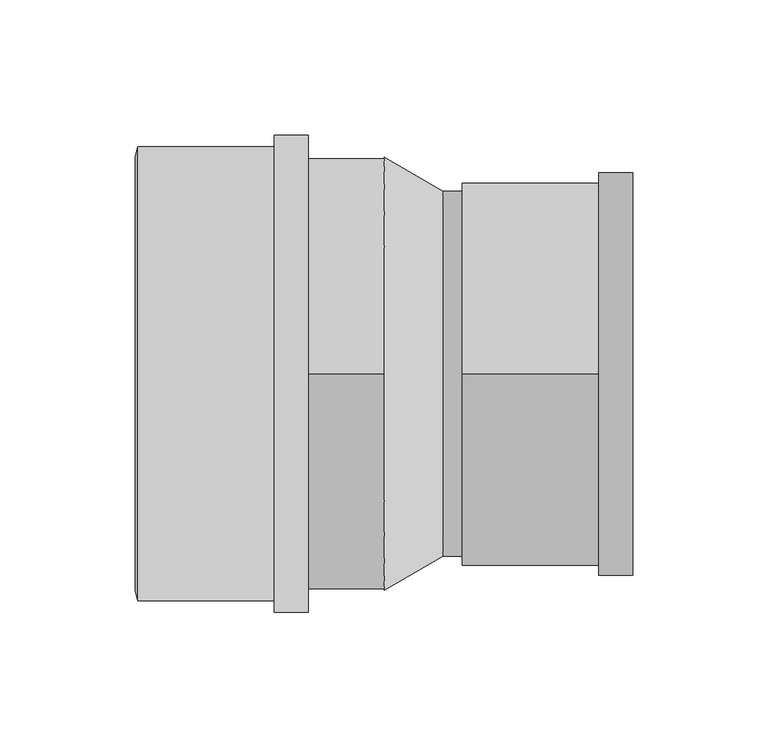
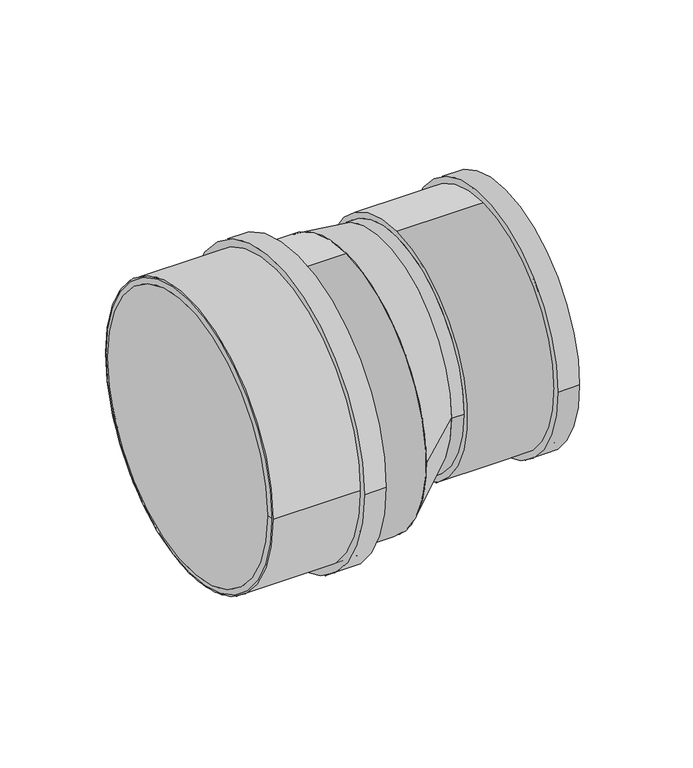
"""IFC4 building model written with IfcOpenShell, lengths in millimetres: pipe fitting geometry, Superdrain SKR-Reducer : Superdrain SKR-Reducer."""

from ifc_helpers import new_model, si_unit, point, frame, frame_2d, origin, origin_2d, place, context, project, spatial, polyline, circle_curve, trimmed, segment, composite_curve, outline, extrude, source, transform, mapped, element, save
from ifc_brep_helpers import plane_surface, revolved_surface, spline_surface, advanced_brep


def pipe_fitting_7beec764(model_context):
    return source(origin(), model_context, "Body", "SolidModel", [
        extrude(outline(composite_curve([segment(trimmed(circle_curve(frame_2d((0.0, 0.1450234)), 84.0), [point((84.0, 0.1450234))], [point((-84.0, 0.1450234))], False, "CARTESIAN"), True, "CONTINUOUS"), segment(trimmed(circle_curve(frame_2d((0.0, 0.1450234)), 84.0), [point((-84.0, 0.1450234))], [point((84.0, 0.1450234))], False, "CARTESIAN"), True, "CONTINUOUS")], self_intersect=False), holes=[composite_curve([segment(trimmed(circle_curve(frame_2d((0.0, 0.1450234)), 80.0), [point((80.0, 0.1450234))], [point((-80.0, 0.1450234))], True, "CARTESIAN"), True, "CONTINUOUS"), segment(trimmed(circle_curve(frame_2d((0.0, 0.1450234)), 80.0), [point((-80.0, 0.1450234))], [point((80.0, 0.1450234))], True, "CARTESIAN"), True, "CONTINUOUS")], self_intersect=False)]), frame((-91.0, 0.0, 0.0), z_axis=(1.0, 0.0, 0.0), x_axis=(0.0, 1.0, 0.0)), (0.0, 0.0, 1.0), 63.0),
        extrude(outline(composite_curve([segment(trimmed(circle_curve(frame_2d((0.0, 0.1450234)), 88.2), [point((88.2, 0.1450234))], [point((-88.2, 0.1450234))], False, "CARTESIAN"), True, "CONTINUOUS"), segment(trimmed(circle_curve(frame_2d((0.0, 0.1450234)), 88.2), [point((-88.2, 0.1450234))], [point((88.2, 0.1450234))], False, "CARTESIAN"), True, "CONTINUOUS")], self_intersect=False), holes=[composite_curve([segment(trimmed(circle_curve(frame_2d((0.0, 0.1450234)), 80.0), [point((80.0, 0.1450234))], [point((-80.0, 0.1450234))], True, "CARTESIAN"), True, "CONTINUOUS"), segment(trimmed(circle_curve(frame_2d((0.0, 0.1450234)), 80.0), [point((-80.0, 0.1450234))], [point((80.0, 0.1450234))], True, "CARTESIAN"), True, "CONTINUOUS")], self_intersect=False)]), frame((-40.6, 0.0, 0.0), z_axis=(1.0, 0.0, 0.0), x_axis=(0.0, 1.0, 0.0)), (0.0, 0.0, 1.0), 12.6),
        advanced_brep(
        [(-92.0, 80.0, 0.1450234), (-92.0, -80.0, 0.1450234), (-91.0, 84.0, 0.1450234), (-91.0, -84.0, 0.1450234)],
        [
            (0, 1, circle_curve(frame((-92.0, 0.0, 0.1450234), z_axis=(-1.0, 0.0, 0.0), x_axis=(0.0, 1.0000000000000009, 0.0)), 80.0)),
            (1, 0, circle_curve(frame((-92.0, 0.0, 0.1450234), z_axis=(-1.0, 0.0, 0.0), x_axis=(0.0, -1.0000000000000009, 0.0)), 80.0)),
            (2, 3, circle_curve(frame((-91.0, 0.0, 0.1450234), z_axis=(1.0, 0.0, 0.0), x_axis=(0.0, -1.0000000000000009, 0.0)), 84.0)),
            (3, 2, circle_curve(frame((-91.0, 0.0, 0.1450234), z_axis=(1.0, 0.0, 0.0), x_axis=(0.0, 1.0000000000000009, 0.0)), 84.0)),
            (3, 1),
            (0, 2),
        ],
        [
            plane_surface(frame((-92.0, 0.0, 0.1450234), z_axis=(-1.0, 0.0, 0.0), x_axis=(0.0, 0.0, -1.0))),
            plane_surface(frame((-91.0, 0.0, 0.1450234), z_axis=(1.0, 0.0, 0.0), x_axis=(0.0, 0.0, -1.0))),
            revolved_surface(polyline([(-92.0, 79.99999999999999, 0.1450234), (-91.0, 84.0, 0.1450234)]), (-112.0, 0.0, 0.1450234), (1.0000000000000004, 0.0, 0.0)),
            revolved_surface(polyline([(-92.0, -79.99999999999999, 0.1450234), (-91.0, -84.0, 0.1450234)]), (-112.0, 0.0, 0.1450234), (1.0000000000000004, 0.0, 0.0)),
        ],
        [
            (0, [[1, 2]]),
            (1, [[3, 4]]),
            (2, [[-4, 5, -1, 6]]),
            (3, [[-3, -6, -2, -5]]),
        ],
    ),
        advanced_brep(
        [(21.75, -67.5, 12.5), (21.75, 67.5, 12.5), (0.0, -80.0, 0.0), (0.0, 80.0, 0.0)],
        [
            (0, 1, circle_curve(frame((21.75, 0.0, 12.5), z_axis=(1.0, 0.0, 0.0), x_axis=(0.0, 1.0, 0.0)), 67.5)),
            (1, 0, circle_curve(frame((21.75, 0.0, 12.5), z_axis=(1.0, 0.0, 0.0), x_axis=(0.0, 1.0, 0.0)), 67.5)),
            (2, 3, circle_curve(frame((0.0, 0.0, 0.0), z_axis=(-1.0, 0.0, 0.0), x_axis=(0.0, 1.0, 0.0)), 80.0)),
            (3, 2, circle_curve(frame((0.0, 0.0, 0.0), z_axis=(-1.0, 0.0, 0.0), x_axis=(0.0, 1.0, 0.0)), 80.0)),
            (3, 1),
            (0, 2),
        ],
        [
            plane_surface(frame((21.75, 0.0, 12.5), z_axis=(1.0, 0.0, 0.0), x_axis=(0.0, 0.0, -1.0))),
            plane_surface(frame((0.0, 0.0, 0.0), z_axis=(-1.0, 0.0, 0.0), x_axis=(0.0, 0.0, -1.0))),
            spline_surface(2, 1, [[(0.0, -80.0, 0.0), (21.75, -67.5, 12.5)], [(0.0, -80.0, -80.0), (21.75, -67.5, -55.0)], [(0.0, 0.0, -80.0), (21.75, 0.0, -55.0)], [(0.0, 80.0, -80.0), (21.75, 67.5, -55.0)], [(0.0, 80.0, 0.0), (21.75, 67.5, 12.5)]], [3, 2, 3], [2, 2], [0.0, 1.0, 2.0], [0.0, 1.0], weights=[[1.0, 1.0], [0.7071067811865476, 0.7071067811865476], [1.0, 1.0], [0.7071067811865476, 0.7071067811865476], [1.0, 1.0]]),
            spline_surface(2, 1, [[(0.0, 80.0, 0.0), (21.75, 67.5, 12.5)], [(0.0, 80.0, 80.0), (21.75, 67.5, 80.0)], [(0.0, 0.0, 80.0), (21.75, 0.0, 80.0)], [(0.0, -80.0, 80.0), (21.75, -67.5, 80.0)], [(0.0, -80.0, 0.0), (21.75, -67.5, 12.5)]], [3, 2, 3], [2, 2], [0.0, 1.0, 2.0], [0.0, 1.0], weights=[[1.0, 1.0], [0.7071067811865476, 0.7071067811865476], [1.0, 1.0], [0.7071067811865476, 0.7071067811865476], [1.0, 1.0]]),
        ],
        [
            (0, [[1, 2]]),
            (1, [[3, 4]]),
            (2, [[-4, 5, -1, 6]]),
            (3, [[-3, -6, -2, -5]]),
        ],
    ),
        extrude(outline(composite_curve([segment(trimmed(circle_curve(frame_2d((0.0, 12.5)), 67.5), [point((-67.5, 12.5))], [point((67.5, 12.5))], False, "CARTESIAN"), True, "CONTINUOUS"), segment(trimmed(circle_curve(frame_2d((0.0, 12.5)), 67.5), [point((67.5, 12.5))], [point((-67.5, 12.5))], False, "CARTESIAN"), True, "CONTINUOUS")], self_intersect=False)), frame((21.75, 0.0, 0.0), z_axis=(1.0, 0.0, 0.0), x_axis=(0.0, 1.0, 0.0)), (0.0, 0.0, 1.0), 7.25),
        extrude(outline(composite_curve([segment(trimmed(circle_curve(frame_2d((0.0, 12.5)), 74.41875), [point((-74.41875, 12.5))], [point((74.41875, 12.5))], False, "CARTESIAN"), True, "CONTINUOUS"), segment(trimmed(circle_curve(frame_2d((0.0, 12.5)), 74.41875), [point((74.41875, 12.5))], [point((-74.41875, 12.5))], False, "CARTESIAN"), True, "CONTINUOUS")], self_intersect=False), holes=[composite_curve([segment(trimmed(circle_curve(frame_2d((0.0, 12.5)), 67.5), [point((67.5, 12.5))], [point((-67.5, 12.5))], True, "CARTESIAN"), True, "CONTINUOUS"), segment(trimmed(circle_curve(frame_2d((0.0, 12.5)), 67.5), [point((-67.5, 12.5))], [point((67.5, 12.5))], True, "CARTESIAN"), True, "CONTINUOUS")], self_intersect=False)]), frame((79.4, 0.0, 0.0), z_axis=(1.0, 0.0, 0.0), x_axis=(0.0, 1.0, 0.0)), (0.0, 0.0, 1.0), 12.6),
        extrude(outline(composite_curve([segment(trimmed(circle_curve(frame_2d((0.0, 12.5)), 70.875), [point((0.0, 83.375))], [point((0.0, -58.375))], False, "CARTESIAN"), True, "CONTINUOUS"), segment(trimmed(circle_curve(frame_2d((0.0, 12.5)), 70.875), [point((0.0, -58.375))], [point((0.0, 83.375))], False, "CARTESIAN"), True, "CONTINUOUS")], self_intersect=False), holes=[composite_curve([segment(trimmed(circle_curve(frame_2d((0.0, 12.5)), 67.5), [point((67.5, 12.5))], [point((-67.5, 12.5))], True, "CARTESIAN"), True, "CONTINUOUS"), segment(trimmed(circle_curve(frame_2d((0.0, 12.5)), 67.5), [point((-67.5, 12.5))], [point((67.5, 12.5))], True, "CARTESIAN"), True, "CONTINUOUS")], self_intersect=False)]), frame((29.0, 0.0, 0.0), z_axis=(1.0, 0.0, 0.0), x_axis=(0.0, 1.0, 0.0)), (0.0, 0.0, 1.0), 63.0),
        extrude(outline(composite_curve([segment(trimmed(circle_curve(origin_2d(), 80.0), [point((0.0, 80.0))], [point((0.0, -80.0))], False, "CARTESIAN"), True, "CONTINUOUS"), segment(trimmed(circle_curve(origin_2d(), 80.0), [point((0.0, -80.0))], [point((0.0, 80.0))], False, "CARTESIAN"), True, "CONTINUOUS")], self_intersect=False)), frame((-91.0, 0.0, 0.0), z_axis=(1.0, 0.0, 0.0), x_axis=(0.0, 1.0, 0.0)), (0.0, 0.0, 1.0), 91.0),
    ])


if __name__ == "__main__":
    model = new_model("IFC4")
    model_context = context("Model", 3, world=origin())
    ifc_project = project(units=[si_unit("LENGTHUNIT", "METRE", prefix="MILLI")], contexts=[model_context])
    site = spatial("IfcSite", under=ifc_project)
    building = spatial("IfcBuilding", under=site)
    placement = place(None, origin())
    pipe_fitting_shape = pipe_fitting_7beec764(model_context)
    element("IfcPipeFitting", 1, ObjectType="Superdrain SKR-Reducer : Superdrain SKR-Reducer", at=placement, inside=building, context=model_context, shape_type="MappedRepresentation", body=[
        mapped(pipe_fitting_shape, transform((0.0, 0.0, 0.0), x_axis=(1.0, 0.0, 0.0), y_axis=(0.0, 1.0, 0.0), z_axis=(0.0, 0.0, 1.0))),
    ])
    save(model, "model.ifc")
